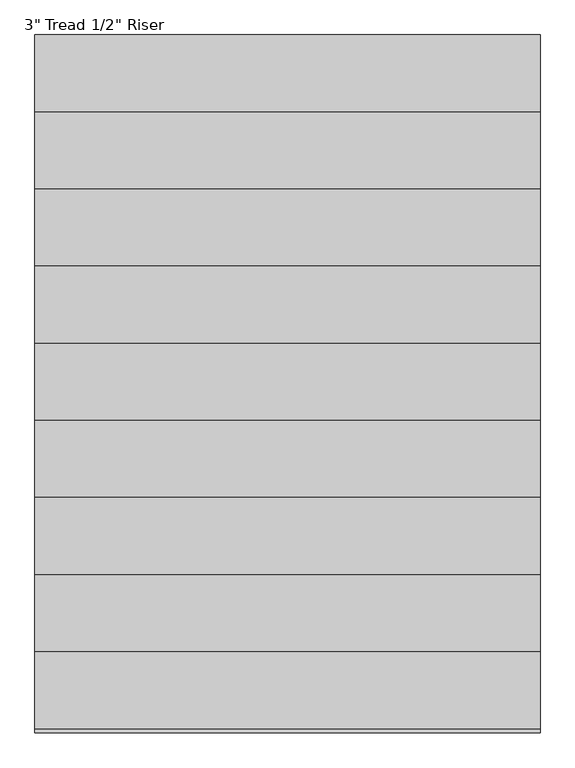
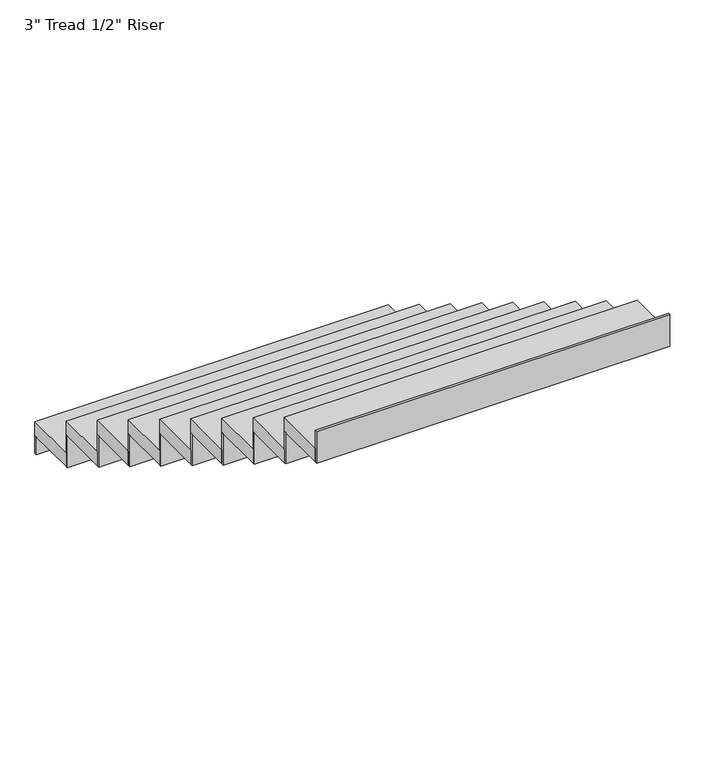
"""IFC4 building model written with IfcOpenShell, lengths in millimetres: stair flight geometry."""

import ifcopenshell
import ifcopenshell.guid

model = None  # the IFC model being written
_history = None  # IfcOwnerHistory: only IFC2X3 demands one
_inside = {}  # id of a spatial element -> (the spatial element, [elements in it])
_under = {}  # id of a project, library or spatial element -> (it, [spatial elements below it])
_declared = {}  # id of a project -> (the project, [libraries it declares])
_typed = {}  # id of a type object -> (the type object, [elements of that type])
_made_of = {}  # id of a material, layer set ... -> (it, [elements and type objects made of it])


def new_model(schema):
    """Start an empty IFC model of exactly this schema.

    Asked for "IFC4X3", IfcOpenShell would pick the latest addendum, in which some entities
    have other attributes; the version numbers below select the first issue.
    IFC2X3 requires an IfcOwnerHistory on every rooted entity: one is made here for all.
    """
    global model, _history
    if schema == "IFC4X3":
        model = ifcopenshell.file(schema_version=(4, 3, 0, 0))
    else:
        model = ifcopenshell.file(schema=schema)
    _inside.clear()
    _under.clear()
    _declared.clear()
    _typed.clear()
    _made_of.clear()
    _history = None
    if model.schema == "IFC2X3":
        org = make("IfcOrganization", Name="unknown")
        user = make(
            "IfcPersonAndOrganization",
            ThePerson=make("IfcPerson", FamilyName="unknown"),
            TheOrganization=org,
        )
        app = make(
            "IfcApplication",
            ApplicationDeveloper=org,
            Version="unknown",
            ApplicationFullName="unknown",
            ApplicationIdentifier="unknown",
        )
        _history = make(
            "IfcOwnerHistory",
            OwningUser=user,
            OwningApplication=app,
            ChangeAction="ADDED",
            CreationDate=0,
        )
    return model


def make(cls, **values):
    """One entity of the class cls with the attributes given. An attribute that is None is left unset."""
    return model.create_entity(
        cls, **{name: value for name, value in values.items() if value is not None}
    )


def rooted(cls, **values):
    """An entity with a GlobalId (a new one), such as an element, a storey or a relation."""
    return make(cls, GlobalId=ifcopenshell.guid.new(), OwnerHistory=_history, **values)


def si_unit(unit_type, name, prefix=None):
    """IfcSIUnit, for example si_unit("LENGTHUNIT", "METRE", prefix="MILLI")."""
    return make("IfcSIUnit", UnitType=unit_type, Prefix=prefix, Name=name)


def assignment(units):
    """IfcUnitAssignment: the units of a project."""
    return None if units is None else make("IfcUnitAssignment", Units=units)


def point(xyz):
    """IfcCartesianPoint."""
    return None if xyz is None else make("IfcCartesianPoint", Coordinates=xyz)


def direction(xyz):
    """IfcDirection."""
    return None if xyz is None else make("IfcDirection", DirectionRatios=xyz)


def frame(location, z_axis=None, x_axis=None):
    """IfcAxis2Placement3D, a coordinate frame: its origin and axes. An axis left out is left unset."""
    return make(
        "IfcAxis2Placement3D",
        Location=point(location),
        Axis=direction(z_axis),
        RefDirection=direction(x_axis),
    )


def origin():
    """The frame at (0, 0, 0) with its axes left unset."""
    return frame((0.0, 0.0, 0.0))


def place(relative_to, where):
    """IfcLocalPlacement: puts the frame where relative to a parent placement (None: the world)."""
    return make(
        "IfcLocalPlacement", PlacementRelTo=relative_to, RelativePlacement=where
    )


def context(
    kind, dimensions, precision=None, world=None, true_north=None, identifier=None
):
    """IfcGeometricRepresentationContext, for example the 3D "Model" context."""
    return make(
        "IfcGeometricRepresentationContext",
        ContextIdentifier=identifier,
        ContextType=kind,
        CoordinateSpaceDimension=dimensions,
        Precision=precision,
        WorldCoordinateSystem=world,
        TrueNorth=true_north,
    )


def project(units=None, contexts=None):
    """IfcProject with its units and contexts."""
    return rooted(
        "IfcProject",
        Name="project",
        RepresentationContexts=contexts,
        UnitsInContext=assignment(units),
    )


def spatial(cls, under=None, at=None, **own):
    """A site, building, storey or space (cls), placed at a placement, below another one or the project."""
    s = rooted(cls, ObjectPlacement=at, **own)
    if under is not None:
        _under.setdefault(under.id(), (under, []))[1].append(s)
    return s


def polyline(points):
    """IfcPolyline through the points."""
    return make("IfcPolyline", Points=[point(p) for p in points])


def outline(outer, holes=None, kind="AREA"):
    """IfcArbitraryClosedProfileDef: a profile drawn as a closed curve; with holes, ...WithVoids."""
    if holes is None:
        return make("IfcArbitraryClosedProfileDef", ProfileType=kind, OuterCurve=outer)
    return make(
        "IfcArbitraryProfileDefWithVoids",
        ProfileType=kind,
        OuterCurve=outer,
        InnerCurves=holes,
    )


def extrude(swept, where, along, depth):
    """IfcExtrudedAreaSolid: the profile swept, set in the frame where, extruded along a direction by depth."""
    return make(
        "IfcExtrudedAreaSolid",
        SweptArea=swept,
        Position=where,
        ExtrudedDirection=direction(along),
        Depth=depth,
    )


def shape(context_of_items, identifier, shape_type, items):
    """IfcShapeRepresentation: the items that make up one representation, for example the "Body"."""
    return make(
        "IfcShapeRepresentation",
        ContextOfItems=context_of_items,
        RepresentationIdentifier=identifier,
        RepresentationType=shape_type,
        Items=items,
    )


def source(mapping_origin, context_of_items, identifier, shape_type, items):
    """IfcRepresentationMap: a shape defined once, which mapped items show again and again."""
    return make(
        "IfcRepresentationMap",
        MappingOrigin=mapping_origin,
        MappedRepresentation=shape(context_of_items, identifier, shape_type, items),
    )


def transform(
    local_origin,
    x_axis=None,
    y_axis=None,
    z_axis=None,
    scale=None,
    scale2=None,
    scale3=None,
    uniform=True,
):
    """IfcCartesianTransformationOperator3D, or its non-uniform kind. x_axis, y_axis, z_axis: its Axis1, 2, 3."""
    if uniform:
        return make(
            "IfcCartesianTransformationOperator3D",
            Axis1=direction(x_axis),
            Axis2=direction(y_axis),
            LocalOrigin=point(local_origin),
            Scale=scale,
            Axis3=direction(z_axis),
        )
    return make(
        "IfcCartesianTransformationOperator3DnonUniform",
        Axis1=direction(x_axis),
        Axis2=direction(y_axis),
        LocalOrigin=point(local_origin),
        Scale=scale,
        Axis3=direction(z_axis),
        Scale2=scale2,
        Scale3=scale3,
    )


def mapped(mapping_source, mapping_target):
    """IfcMappedItem: shows the shape of a source again, moved by a transform."""
    return make(
        "IfcMappedItem", MappingSource=mapping_source, MappingTarget=mapping_target
    )


def made_of(thing, what):
    """Note that an element or type object is made of a material, layer set ...; save() writes the relation."""
    if what is not None:
        _made_of.setdefault(what.id(), (what, []))[1].append(thing)
    return thing


def element(
    cls,
    number,
    at=None,
    inside=None,
    cuts=None,
    type_object=None,
    material=None,
    context=None,
    identifier="Body",
    shape_type=None,
    held_by="IfcProductDefinitionShape",
    body=None,
    shapes=None,
    **own,
):
    """One element of the class cls, such as IfcWall. Its Tag is "e" and its number.

    at: its placement. inside: the storey or other place that contains it. cuts: it is an
    opening in that element (IfcRelVoidsElement). A single representation is given by context,
    identifier, shape_type and body (its items); several are given by shapes. held_by: the class
    of the entity that holds the representations. save() writes the other relations.
    """
    e = rooted(cls, Tag="e%d" % number, ObjectPlacement=at, **own)
    if body is not None:
        shapes = [shape(context, identifier, shape_type, body)]
    if shapes is not None:
        e.Representation = make(held_by, Representations=shapes)
    if inside is not None:
        _inside.setdefault(inside.id(), (inside, []))[1].append(e)
    if cuts is not None:
        rooted(
            "IfcRelVoidsElement", RelatingBuildingElement=cuts, RelatedOpeningElement=e
        )
    if type_object is not None:
        _typed.setdefault(type_object.id(), (type_object, []))[1].append(e)
    return made_of(e, material)


def aggregate(whole, parts):
    """IfcRelAggregates: a whole, such as a stair, and the parts it consists of."""
    return rooted("IfcRelAggregates", RelatingObject=whole, RelatedObjects=parts)


def save(model, path):
    """Write the relations noted so far, then the file.

    IfcRelAggregates (storeys below a building ...), IfcRelContainedInSpatialStructure (elements
    in a storey), IfcRelDefinesByType, IfcRelAssociatesMaterial and IfcRelDeclares: one each for
    every whole, place, type object, material and project.
    """
    for whole, parts in _under.values():
        aggregate(whole, parts)
    for where, things in _inside.values():
        rooted(
            "IfcRelContainedInSpatialStructure",
            RelatedElements=things,
            RelatingStructure=where,
        )
    for kind, things in _typed.values():
        rooted("IfcRelDefinesByType", RelatedObjects=things, RelatingType=kind)
    for what, things in _made_of.values():
        rooted("IfcRelAssociatesMaterial", RelatedObjects=things, RelatingMaterial=what)
    for by, libraries in _declared.values():
        rooted("IfcRelDeclares", RelatingContext=by, RelatedDefinitions=libraries)
    model.write(path)


def stair_flight_74e7f314(model_context):
    return source(origin(), model_context, "Body", "SweptSolid", [
        extrude(outline(polyline([(35251.5654546, 230727.0703252), (35251.5654546, 230739.7703252), (37080.3654546, 230739.7703252), (37080.3654546, 230727.0703252), (35251.5654546, 230727.0703252)])), frame((0.0, 0.0, 290690.3), z_axis=(0.0, 0.0, 1.0), x_axis=(1.0, 0.0, 0.0)), (0.0, 0.0, 1.0), 96.3083333),
        extrude(outline(polyline([(37080.3654546, 230460.3703252), (35251.5654546, 230460.3703252), (35251.5654546, 230739.7703252), (37080.3654546, 230739.7703252), (37080.3654546, 230460.3703252)])), frame((0.0, 0.0, 290786.6083333), z_axis=(0.0, 0.0, 1.0), x_axis=(1.0, 0.0, 0.0)), (0.0, 0.0, 1.0), 76.2),
        extrude(outline(polyline([(35251.5654546, 230447.6703252), (35251.5654546, 230460.3703252), (37080.3654546, 230460.3703252), (37080.3654546, 230447.6703252), (35251.5654546, 230447.6703252)])), frame((0.0, 0.0, 290786.6083333), z_axis=(0.0, 0.0, 1.0), x_axis=(1.0, 0.0, 0.0)), (0.0, 0.0, 1.0), 172.5083333),
        extrude(outline(polyline([(37080.3654546, 230180.9703252), (35251.5654546, 230180.9703252), (35251.5654546, 230460.3703252), (37080.3654546, 230460.3703252), (37080.3654546, 230180.9703252)])), frame((0.0, 0.0, 290959.1166667), z_axis=(0.0, 0.0, 1.0), x_axis=(1.0, 0.0, 0.0)), (0.0, 0.0, 1.0), 76.2),
        extrude(outline(polyline([(35251.5654546, 230168.2703252), (35251.5654546, 230180.9703252), (37080.3654546, 230180.9703252), (37080.3654546, 230168.2703252), (35251.5654546, 230168.2703252)])), frame((0.0, 0.0, 290959.1166667), z_axis=(0.0, 0.0, 1.0), x_axis=(1.0, 0.0, 0.0)), (0.0, 0.0, 1.0), 172.5083333),
        extrude(outline(polyline([(37080.3654546, 229901.5703252), (35251.5654546, 229901.5703252), (35251.5654546, 230180.9703252), (37080.3654546, 230180.9703252), (37080.3654546, 229901.5703252)])), frame((0.0, 0.0, 291131.625), z_axis=(0.0, 0.0, 1.0), x_axis=(1.0, 0.0, 0.0)), (0.0, 0.0, 1.0), 76.2),
        extrude(outline(polyline([(35251.5654546, 229888.8703252), (35251.5654546, 229901.5703252), (37080.3654546, 229901.5703252), (37080.3654546, 229888.8703252), (35251.5654546, 229888.8703252)])), frame((0.0, 0.0, 291131.625), z_axis=(0.0, 0.0, 1.0), x_axis=(1.0, 0.0, 0.0)), (0.0, 0.0, 1.0), 172.5083333),
        extrude(outline(polyline([(37080.3654546, 229622.1703252), (35251.5654546, 229622.1703252), (35251.5654546, 229901.5703252), (37080.3654546, 229901.5703252), (37080.3654546, 229622.1703252)])), frame((0.0, 0.0, 291304.1333333), z_axis=(0.0, 0.0, 1.0), x_axis=(1.0, 0.0, 0.0)), (0.0, 0.0, 1.0), 76.2),
        extrude(outline(polyline([(35251.5654546, 229609.4703252), (35251.5654546, 229622.1703252), (37080.3654546, 229622.1703252), (37080.3654546, 229609.4703252), (35251.5654546, 229609.4703252)])), frame((0.0, 0.0, 291304.1333333), z_axis=(0.0, 0.0, 1.0), x_axis=(1.0, 0.0, 0.0)), (0.0, 0.0, 1.0), 172.5083333),
        extrude(outline(polyline([(37080.3654546, 229342.7703252), (35251.5654546, 229342.7703252), (35251.5654546, 229622.1703252), (37080.3654546, 229622.1703252), (37080.3654546, 229342.7703252)])), frame((0.0, 0.0, 291476.6416667), z_axis=(0.0, 0.0, 1.0), x_axis=(1.0, 0.0, 0.0)), (0.0, 0.0, 1.0), 76.2),
        extrude(outline(polyline([(35251.5654546, 229330.0703252), (35251.5654546, 229342.7703252), (37080.3654546, 229342.7703252), (37080.3654546, 229330.0703252), (35251.5654546, 229330.0703252)])), frame((0.0, 0.0, 291476.6416667), z_axis=(0.0, 0.0, 1.0), x_axis=(1.0, 0.0, 0.0)), (0.0, 0.0, 1.0), 172.5083333),
        extrude(outline(polyline([(37080.3654546, 229063.3703252), (35251.5654546, 229063.3703252), (35251.5654546, 229342.7703252), (37080.3654546, 229342.7703252), (37080.3654546, 229063.3703252)])), frame((0.0, 0.0, 291649.15), z_axis=(0.0, 0.0, 1.0), x_axis=(1.0, 0.0, 0.0)), (0.0, 0.0, 1.0), 76.2),
        extrude(outline(polyline([(35251.5654546, 229050.6703252), (35251.5654546, 229063.3703252), (37080.3654546, 229063.3703252), (37080.3654546, 229050.6703252), (35251.5654546, 229050.6703252)])), frame((0.0, 0.0, 291649.15), z_axis=(0.0, 0.0, 1.0), x_axis=(1.0, 0.0, 0.0)), (0.0, 0.0, 1.0), 172.5083333),
        extrude(outline(polyline([(37080.3654546, 228783.9703252), (35251.5654546, 228783.9703252), (35251.5654546, 229063.3703252), (37080.3654546, 229063.3703252), (37080.3654546, 228783.9703252)])), frame((0.0, 0.0, 291821.6583333), z_axis=(0.0, 0.0, 1.0), x_axis=(1.0, 0.0, 0.0)), (0.0, 0.0, 1.0), 76.2),
        extrude(outline(polyline([(35251.5654546, 228771.2703252), (35251.5654546, 228783.9703252), (37080.3654546, 228783.9703252), (37080.3654546, 228771.2703252), (35251.5654546, 228771.2703252)])), frame((0.0, 0.0, 291821.6583333), z_axis=(0.0, 0.0, 1.0), x_axis=(1.0, 0.0, 0.0)), (0.0, 0.0, 1.0), 172.5083333),
        extrude(outline(polyline([(37080.3654546, 228504.5703252), (35251.5654546, 228504.5703252), (35251.5654546, 228783.9703252), (37080.3654546, 228783.9703252), (37080.3654546, 228504.5703252)])), frame((0.0, 0.0, 291994.1666667), z_axis=(0.0, 0.0, 1.0), x_axis=(1.0, 0.0, 0.0)), (0.0, 0.0, 1.0), 76.2),
        extrude(outline(polyline([(35251.5654546, 228491.8703252), (35251.5654546, 228504.5703252), (37080.3654546, 228504.5703252), (37080.3654546, 228491.8703252), (35251.5654546, 228491.8703252)])), frame((0.0, 0.0, 291994.1666667), z_axis=(0.0, 0.0, 1.0), x_axis=(1.0, 0.0, 0.0)), (0.0, 0.0, 1.0), 172.5083333),
        extrude(outline(polyline([(35251.5654546, 228212.4703252), (35251.5654546, 228225.1703252), (37080.3654546, 228225.1703252), (37080.3654546, 228212.4703252), (35251.5654546, 228212.4703252)])), frame((0.0, 0.0, 292166.675), z_axis=(0.0, 0.0, 1.0), x_axis=(1.0, 0.0, 0.0)), (0.0, 0.0, 1.0), 172.5083333),
        extrude(outline(polyline([(37080.3654546, 228225.1703252), (35251.5654546, 228225.1703252), (35251.5654546, 228504.5703252), (37080.3654546, 228504.5703252), (37080.3654546, 228225.1703252)])), frame((0.0, 0.0, 292166.675), z_axis=(0.0, 0.0, 1.0), x_axis=(1.0, 0.0, 0.0)), (0.0, 0.0, 1.0), 76.2),
    ])


if __name__ == "__main__":
    model = new_model("IFC4")
    model_context = context("Model", 3, world=origin())
    ifc_project = project(units=[si_unit("LENGTHUNIT", "METRE", prefix="MILLI")], contexts=[model_context])
    site = spatial("IfcSite", under=ifc_project)
    building = spatial("IfcBuilding", under=site)
    placement = place(None, origin())
    stair_flight_shape = stair_flight_74e7f314(model_context)
    element("IfcStairFlight", 1, ObjectType="3\" Tread 1/2\" Riser", at=placement, inside=building, context=model_context, shape_type="MappedRepresentation", body=[
        mapped(stair_flight_shape, transform((0.0, 0.0, 0.0), x_axis=(1.0, 0.0, 0.0), y_axis=(0.0, 1.0, 0.0), z_axis=(0.0, 0.0, 1.0))),
    ])
    save(model, "model.ifc")
